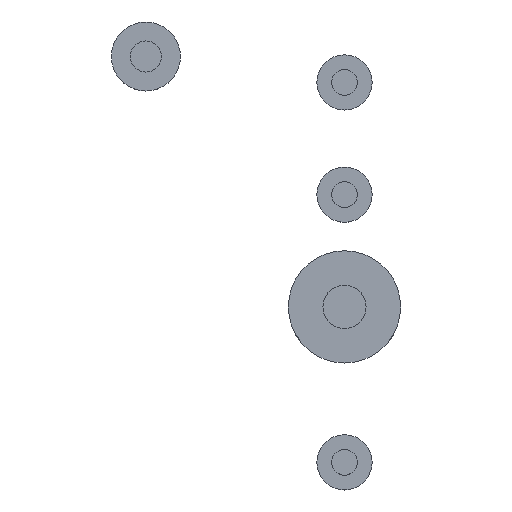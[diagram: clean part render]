
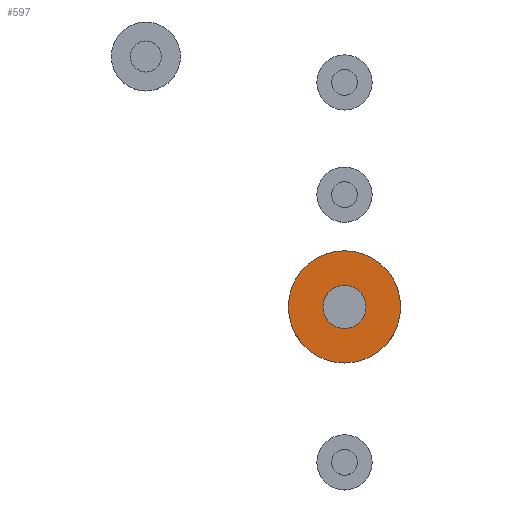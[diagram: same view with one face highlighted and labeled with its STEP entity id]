
A CAD part, top view. The second image highlights one B-rep face of the part: STEP entity #597.
In plain terms, the highlighted planar face has unit normal (0, 0, 1).
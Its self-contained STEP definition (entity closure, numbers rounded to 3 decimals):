
#504 = VERTEX_POINT('',#505);
#505 = CARTESIAN_POINT('',(-42.5,-2.,-45.3));
#512 = CYLINDRICAL_SURFACE('',#513,6.5);
#513 = AXIS2_PLACEMENT_3D('',#514,#515,#516);
#514 = CARTESIAN_POINT('',(-36.,-2.,-47.));
#515 = DIRECTION('',(0.,-0.,-1.));
#516 = DIRECTION('',(-1.,-0.,-0.));
#531 = EDGE_CURVE('',#504,#504,#532,.T.);
#532 = SURFACE_CURVE('',#533,(#538,#545),.PCURVE_S1.);
#533 = CIRCLE('',#534,6.5);
#534 = AXIS2_PLACEMENT_3D('',#535,#536,#537);
#535 = CARTESIAN_POINT('',(-36.,-2.,-45.3));
#536 = DIRECTION('',(0.,0.,-1.));
#537 = DIRECTION('',(-1.,-0.,-0.));
#538 = PCURVE('',#512,#539);
#539 = DEFINITIONAL_REPRESENTATION('',(#540),#544);
#540 = LINE('',#541,#542);
#541 = CARTESIAN_POINT('',(0.,-1.7));
#542 = VECTOR('',#543,1.);
#543 = DIRECTION('',(1.,0.));
#544 = ( GEOMETRIC_REPRESENTATION_CONTEXT(2) 
PARAMETRIC_REPRESENTATION_CONTEXT() REPRESENTATION_CONTEXT('2D SPACE',''
  ) );
#545 = PCURVE('',#546,#551);
#546 = PLANE('',#547);
#547 = AXIS2_PLACEMENT_3D('',#548,#549,#550);
#548 = CARTESIAN_POINT('',(-36.,-2.,-45.3));
#549 = DIRECTION('',(-0.,-0.,1.));
#550 = DIRECTION('',(1.,0.,0.));
#551 = DEFINITIONAL_REPRESENTATION('',(#552),#560);
#552 = ( BOUNDED_CURVE() B_SPLINE_CURVE(2,(#553,#554,#555,#556,#557,#558
,#559),.UNSPECIFIED.,.T.,.F.) B_SPLINE_CURVE_WITH_KNOTS((1,2,2,2,2,1),(
    -2.094,0.,2.094,4.189,6.283,
8.378),.UNSPECIFIED.) CURVE() GEOMETRIC_REPRESENTATION_ITEM() 
RATIONAL_B_SPLINE_CURVE((1.,0.5,1.,0.5,1.,0.5,1.)) REPRESENTATION_ITEM(
  '') );
#553 = CARTESIAN_POINT('',(-6.5,0.));
#554 = CARTESIAN_POINT('',(-6.5,11.258));
#555 = CARTESIAN_POINT('',(3.25,5.629));
#556 = CARTESIAN_POINT('',(13.,0.));
#557 = CARTESIAN_POINT('',(3.25,-5.629));
#558 = CARTESIAN_POINT('',(-6.5,-11.258));
#559 = CARTESIAN_POINT('',(-6.5,0.));
#560 = ( GEOMETRIC_REPRESENTATION_CONTEXT(2) 
PARAMETRIC_REPRESENTATION_CONTEXT() REPRESENTATION_CONTEXT('2D SPACE',''
  ) );
#597 = ADVANCED_FACE('',(#598,#601),#546,.T.);
#598 = FACE_BOUND('',#599,.F.);
#599 = EDGE_LOOP('',(#600));
#600 = ORIENTED_EDGE('',*,*,#531,.T.);
#601 = FACE_BOUND('',#602,.F.);
#602 = EDGE_LOOP('',(#603));
#603 = ORIENTED_EDGE('',*,*,#604,.F.);
#604 = EDGE_CURVE('',#605,#605,#607,.T.);
#605 = VERTEX_POINT('',#606);
#606 = CARTESIAN_POINT('',(-38.5,-2.,-45.3));
#607 = SURFACE_CURVE('',#608,(#613,#624),.PCURVE_S1.);
#608 = CIRCLE('',#609,2.5);
#609 = AXIS2_PLACEMENT_3D('',#610,#611,#612);
#610 = CARTESIAN_POINT('',(-36.,-2.,-45.3));
#611 = DIRECTION('',(0.,0.,-1.));
#612 = DIRECTION('',(-1.,-0.,-0.));
#613 = PCURVE('',#546,#614);
#614 = DEFINITIONAL_REPRESENTATION('',(#615),#623);
#615 = ( BOUNDED_CURVE() B_SPLINE_CURVE(2,(#616,#617,#618,#619,#620,#621
,#622),.UNSPECIFIED.,.T.,.F.) B_SPLINE_CURVE_WITH_KNOTS((1,2,2,2,2,1),(
    -2.094,0.,2.094,4.189,6.283,
8.378),.UNSPECIFIED.) CURVE() GEOMETRIC_REPRESENTATION_ITEM() 
RATIONAL_B_SPLINE_CURVE((1.,0.5,1.,0.5,1.,0.5,1.)) REPRESENTATION_ITEM(
  '') );
#616 = CARTESIAN_POINT('',(-2.5,0.));
#617 = CARTESIAN_POINT('',(-2.5,4.33));
#618 = CARTESIAN_POINT('',(1.25,2.165));
#619 = CARTESIAN_POINT('',(5.,0.));
#620 = CARTESIAN_POINT('',(1.25,-2.165));
#621 = CARTESIAN_POINT('',(-2.5,-4.33));
#622 = CARTESIAN_POINT('',(-2.5,0.));
#623 = ( GEOMETRIC_REPRESENTATION_CONTEXT(2) 
PARAMETRIC_REPRESENTATION_CONTEXT() REPRESENTATION_CONTEXT('2D SPACE',''
  ) );
#624 = PCURVE('',#625,#630);
#625 = CYLINDRICAL_SURFACE('',#626,2.5);
#626 = AXIS2_PLACEMENT_3D('',#627,#628,#629);
#627 = CARTESIAN_POINT('',(-36.,-2.,-45.3));
#628 = DIRECTION('',(0.,-0.,-1.));
#629 = DIRECTION('',(-1.,-0.,-0.));
#630 = DEFINITIONAL_REPRESENTATION('',(#631),#635);
#631 = LINE('',#632,#633);
#632 = CARTESIAN_POINT('',(0.,0.));
#633 = VECTOR('',#634,1.);
#634 = DIRECTION('',(1.,0.));
#635 = ( GEOMETRIC_REPRESENTATION_CONTEXT(2) 
PARAMETRIC_REPRESENTATION_CONTEXT() REPRESENTATION_CONTEXT('2D SPACE',''
  ) );
